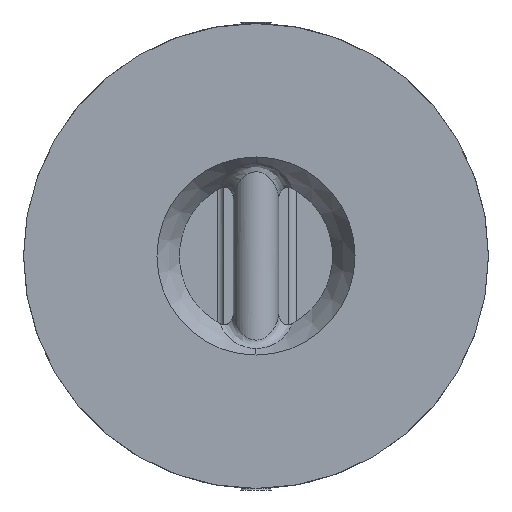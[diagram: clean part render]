
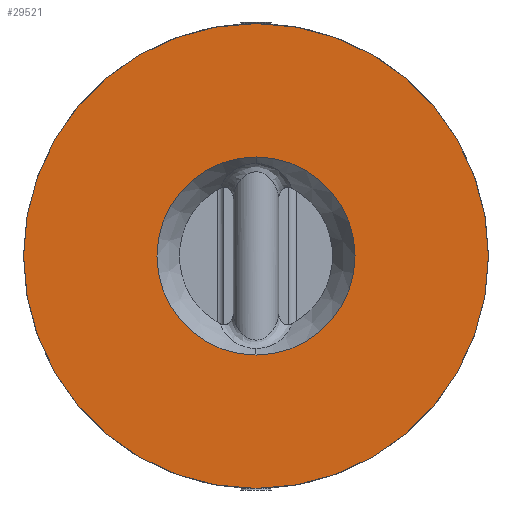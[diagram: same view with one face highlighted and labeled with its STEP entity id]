
A CAD part, front view. The second image highlights one B-rep face of the part: STEP entity #29521.
In plain terms, the highlighted planar face has unit normal (0, -1, 0).
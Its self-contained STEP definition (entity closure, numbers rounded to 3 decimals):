
#316 = CIRCLE ( 'NONE', #30642, 72. ) ;
#1139 = EDGE_CURVE ( 'NONE', #36042, #11808, #58687, .T. ) ;
#1405 = FACE_BOUND ( 'NONE', #28754, .T. ) ;
#1881 = CARTESIAN_POINT ( 'NONE',  ( 0., 0., 0. ) ) ;
#3159 = ORIENTED_EDGE ( 'NONE', *, *, #31760, .T. ) ;
#4111 = DIRECTION ( 'NONE',  ( 0., 0., -1. ) ) ;
#6115 = DIRECTION ( 'NONE',  ( 0., 1., 0. ) ) ;
#6481 = DIRECTION ( 'NONE',  ( 0., 0., -1. ) ) ;
#11808 = VERTEX_POINT ( 'NONE', #50941 ) ;
#12877 = AXIS2_PLACEMENT_3D ( 'NONE', #1881, #33934, #6481 ) ;
#13580 = FACE_OUTER_BOUND ( 'NONE', #41475, .T. ) ;
#13758 = CARTESIAN_POINT ( 'NONE',  ( 0., 0., -72. ) ) ;
#14089 = ORIENTED_EDGE ( 'NONE', *, *, #47969, .T. ) ;
#20440 = PLANE ( 'NONE',  #27442 ) ;
#21053 = VERTEX_POINT ( 'NONE', #36404 ) ;
#24138 = EDGE_CURVE ( 'NONE', #46376, #21053, #25827, .T. ) ;
#25050 = DIRECTION ( 'NONE',  ( 0., 0., -1. ) ) ;
#25827 = CIRCLE ( 'NONE', #58834, 72. ) ;
#26084 = DIRECTION ( 'NONE',  ( 0., -1., 0. ) ) ;
#26708 = ORIENTED_EDGE ( 'NONE', *, *, #1139, .T. ) ;
#27442 = AXIS2_PLACEMENT_3D ( 'NONE', #38654, #52457, #25050 ) ;
#28754 = EDGE_LOOP ( 'NONE', ( #3159, #26708 ) ) ;
#29521 = ADVANCED_FACE ( 'NONE', ( #1405, #13580 ), #20440, .T. ) ;
#30305 = CARTESIAN_POINT ( 'NONE',  ( 0., 0., 30.678 ) ) ;
#30642 = AXIS2_PLACEMENT_3D ( 'NONE', #53489, #26084, #58104 ) ;
#31579 = DIRECTION ( 'NONE',  ( 0., -1., 0. ) ) ;
#31760 = EDGE_CURVE ( 'NONE', #11808, #36042, #52935, .T. ) ;
#32543 = AXIS2_PLACEMENT_3D ( 'NONE', #33569, #6115, #38168 ) ;
#33569 = CARTESIAN_POINT ( 'NONE',  ( 0., 0., 0. ) ) ;
#33934 = DIRECTION ( 'NONE',  ( 0., 1., 0. ) ) ;
#36042 = VERTEX_POINT ( 'NONE', #30305 ) ;
#36404 = CARTESIAN_POINT ( 'NONE',  ( 0., 0., 72. ) ) ;
#38168 = DIRECTION ( 'NONE',  ( 0., 0., -1. ) ) ;
#38654 = CARTESIAN_POINT ( 'NONE',  ( 0., 0., 0. ) ) ;
#41475 = EDGE_LOOP ( 'NONE', ( #46694, #14089 ) ) ;
#46376 = VERTEX_POINT ( 'NONE', #13758 ) ;
#46694 = ORIENTED_EDGE ( 'NONE', *, *, #24138, .T. ) ;
#47969 = EDGE_CURVE ( 'NONE', #21053, #46376, #316, .T. ) ;
#50941 = CARTESIAN_POINT ( 'NONE',  ( 0., 0., -30.678 ) ) ;
#52457 = DIRECTION ( 'NONE',  ( 0., -1., 0. ) ) ;
#52935 = CIRCLE ( 'NONE', #12877, 30.678 ) ;
#53489 = CARTESIAN_POINT ( 'NONE',  ( 0., 0., 0. ) ) ;
#58104 = DIRECTION ( 'NONE',  ( 0., 0., -1. ) ) ;
#58687 = CIRCLE ( 'NONE', #32543, 30.678 ) ;
#58834 = AXIS2_PLACEMENT_3D ( 'NONE', #58992, #31579, #4111 ) ;
#58992 = CARTESIAN_POINT ( 'NONE',  ( 0., 0., 0. ) ) ;
